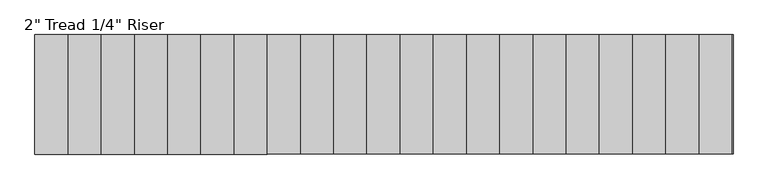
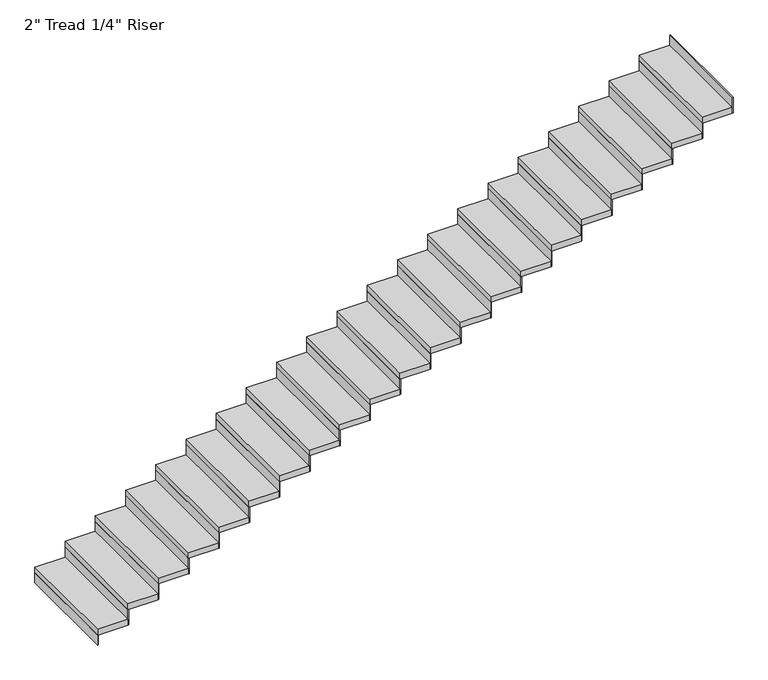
"""IFC4 building model written with IfcOpenShell, lengths in millimetres: stair flight geometry."""

import ifcopenshell
import ifcopenshell.guid

model = None  # the IFC model being written
_history = None  # IfcOwnerHistory: only IFC2X3 demands one
_inside = {}  # id of a spatial element -> (the spatial element, [elements in it])
_under = {}  # id of a project, library or spatial element -> (it, [spatial elements below it])
_declared = {}  # id of a project -> (the project, [libraries it declares])
_typed = {}  # id of a type object -> (the type object, [elements of that type])
_made_of = {}  # id of a material, layer set ... -> (it, [elements and type objects made of it])


def new_model(schema):
    """Start an empty IFC model of exactly this schema.

    Asked for "IFC4X3", IfcOpenShell would pick the latest addendum, in which some entities
    have other attributes; the version numbers below select the first issue.
    IFC2X3 requires an IfcOwnerHistory on every rooted entity: one is made here for all.
    """
    global model, _history
    if schema == "IFC4X3":
        model = ifcopenshell.file(schema_version=(4, 3, 0, 0))
    else:
        model = ifcopenshell.file(schema=schema)
    _inside.clear()
    _under.clear()
    _declared.clear()
    _typed.clear()
    _made_of.clear()
    _history = None
    if model.schema == "IFC2X3":
        org = make("IfcOrganization", Name="unknown")
        user = make(
            "IfcPersonAndOrganization",
            ThePerson=make("IfcPerson", FamilyName="unknown"),
            TheOrganization=org,
        )
        app = make(
            "IfcApplication",
            ApplicationDeveloper=org,
            Version="unknown",
            ApplicationFullName="unknown",
            ApplicationIdentifier="unknown",
        )
        _history = make(
            "IfcOwnerHistory",
            OwningUser=user,
            OwningApplication=app,
            ChangeAction="ADDED",
            CreationDate=0,
        )
    return model


def make(cls, **values):
    """One entity of the class cls with the attributes given. An attribute that is None is left unset."""
    return model.create_entity(
        cls, **{name: value for name, value in values.items() if value is not None}
    )


def rooted(cls, **values):
    """An entity with a GlobalId (a new one), such as an element, a storey or a relation."""
    return make(cls, GlobalId=ifcopenshell.guid.new(), OwnerHistory=_history, **values)


def si_unit(unit_type, name, prefix=None):
    """IfcSIUnit, for example si_unit("LENGTHUNIT", "METRE", prefix="MILLI")."""
    return make("IfcSIUnit", UnitType=unit_type, Prefix=prefix, Name=name)


def assignment(units):
    """IfcUnitAssignment: the units of a project."""
    return None if units is None else make("IfcUnitAssignment", Units=units)


def point(xyz):
    """IfcCartesianPoint."""
    return None if xyz is None else make("IfcCartesianPoint", Coordinates=xyz)


def direction(xyz):
    """IfcDirection."""
    return None if xyz is None else make("IfcDirection", DirectionRatios=xyz)


def frame(location, z_axis=None, x_axis=None):
    """IfcAxis2Placement3D, a coordinate frame: its origin and axes. An axis left out is left unset."""
    return make(
        "IfcAxis2Placement3D",
        Location=point(location),
        Axis=direction(z_axis),
        RefDirection=direction(x_axis),
    )


def origin():
    """The frame at (0, 0, 0) with its axes left unset."""
    return frame((0.0, 0.0, 0.0))


def origin_with_axes():
    """The frame at (0, 0, 0) with the z axis (0, 0, 1) and the x axis (1, 0, 0) written out."""
    return frame((0.0, 0.0, 0.0), z_axis=(0.0, 0.0, 1.0), x_axis=(1.0, 0.0, 0.0))


def place(relative_to, where):
    """IfcLocalPlacement: puts the frame where relative to a parent placement (None: the world)."""
    return make(
        "IfcLocalPlacement", PlacementRelTo=relative_to, RelativePlacement=where
    )


def context(
    kind, dimensions, precision=None, world=None, true_north=None, identifier=None
):
    """IfcGeometricRepresentationContext, for example the 3D "Model" context."""
    return make(
        "IfcGeometricRepresentationContext",
        ContextIdentifier=identifier,
        ContextType=kind,
        CoordinateSpaceDimension=dimensions,
        Precision=precision,
        WorldCoordinateSystem=world,
        TrueNorth=true_north,
    )


def project(units=None, contexts=None):
    """IfcProject with its units and contexts."""
    return rooted(
        "IfcProject",
        Name="project",
        RepresentationContexts=contexts,
        UnitsInContext=assignment(units),
    )


def spatial(cls, under=None, at=None, **own):
    """A site, building, storey or space (cls), placed at a placement, below another one or the project."""
    s = rooted(cls, ObjectPlacement=at, **own)
    if under is not None:
        _under.setdefault(under.id(), (under, []))[1].append(s)
    return s


def polyline(points):
    """IfcPolyline through the points."""
    return make("IfcPolyline", Points=[point(p) for p in points])


def outline(outer, holes=None, kind="AREA"):
    """IfcArbitraryClosedProfileDef: a profile drawn as a closed curve; with holes, ...WithVoids."""
    if holes is None:
        return make("IfcArbitraryClosedProfileDef", ProfileType=kind, OuterCurve=outer)
    return make(
        "IfcArbitraryProfileDefWithVoids",
        ProfileType=kind,
        OuterCurve=outer,
        InnerCurves=holes,
    )


def extrude(swept, where, along, depth):
    """IfcExtrudedAreaSolid: the profile swept, set in the frame where, extruded along a direction by depth."""
    return make(
        "IfcExtrudedAreaSolid",
        SweptArea=swept,
        Position=where,
        ExtrudedDirection=direction(along),
        Depth=depth,
    )


def shape(context_of_items, identifier, shape_type, items):
    """IfcShapeRepresentation: the items that make up one representation, for example the "Body"."""
    return make(
        "IfcShapeRepresentation",
        ContextOfItems=context_of_items,
        RepresentationIdentifier=identifier,
        RepresentationType=shape_type,
        Items=items,
    )


def source(mapping_origin, context_of_items, identifier, shape_type, items):
    """IfcRepresentationMap: a shape defined once, which mapped items show again and again."""
    return make(
        "IfcRepresentationMap",
        MappingOrigin=mapping_origin,
        MappedRepresentation=shape(context_of_items, identifier, shape_type, items),
    )


def transform(
    local_origin,
    x_axis=None,
    y_axis=None,
    z_axis=None,
    scale=None,
    scale2=None,
    scale3=None,
    uniform=True,
):
    """IfcCartesianTransformationOperator3D, or its non-uniform kind. x_axis, y_axis, z_axis: its Axis1, 2, 3."""
    if uniform:
        return make(
            "IfcCartesianTransformationOperator3D",
            Axis1=direction(x_axis),
            Axis2=direction(y_axis),
            LocalOrigin=point(local_origin),
            Scale=scale,
            Axis3=direction(z_axis),
        )
    return make(
        "IfcCartesianTransformationOperator3DnonUniform",
        Axis1=direction(x_axis),
        Axis2=direction(y_axis),
        LocalOrigin=point(local_origin),
        Scale=scale,
        Axis3=direction(z_axis),
        Scale2=scale2,
        Scale3=scale3,
    )


def mapped(mapping_source, mapping_target):
    """IfcMappedItem: shows the shape of a source again, moved by a transform."""
    return make(
        "IfcMappedItem", MappingSource=mapping_source, MappingTarget=mapping_target
    )


def made_of(thing, what):
    """Note that an element or type object is made of a material, layer set ...; save() writes the relation."""
    if what is not None:
        _made_of.setdefault(what.id(), (what, []))[1].append(thing)
    return thing


def element(
    cls,
    number,
    at=None,
    inside=None,
    cuts=None,
    type_object=None,
    material=None,
    context=None,
    identifier="Body",
    shape_type=None,
    held_by="IfcProductDefinitionShape",
    body=None,
    shapes=None,
    **own,
):
    """One element of the class cls, such as IfcWall. Its Tag is "e" and its number.

    at: its placement. inside: the storey or other place that contains it. cuts: it is an
    opening in that element (IfcRelVoidsElement). A single representation is given by context,
    identifier, shape_type and body (its items); several are given by shapes. held_by: the class
    of the entity that holds the representations. save() writes the other relations.
    """
    e = rooted(cls, Tag="e%d" % number, ObjectPlacement=at, **own)
    if body is not None:
        shapes = [shape(context, identifier, shape_type, body)]
    if shapes is not None:
        e.Representation = make(held_by, Representations=shapes)
    if inside is not None:
        _inside.setdefault(inside.id(), (inside, []))[1].append(e)
    if cuts is not None:
        rooted(
            "IfcRelVoidsElement", RelatingBuildingElement=cuts, RelatedOpeningElement=e
        )
    if type_object is not None:
        _typed.setdefault(type_object.id(), (type_object, []))[1].append(e)
    return made_of(e, material)


def aggregate(whole, parts):
    """IfcRelAggregates: a whole, such as a stair, and the parts it consists of."""
    return rooted("IfcRelAggregates", RelatingObject=whole, RelatedObjects=parts)


def save(model, path):
    """Write the relations noted so far, then the file.

    IfcRelAggregates (storeys below a building ...), IfcRelContainedInSpatialStructure (elements
    in a storey), IfcRelDefinesByType, IfcRelAssociatesMaterial and IfcRelDeclares: one each for
    every whole, place, type object, material and project.
    """
    for whole, parts in _under.values():
        aggregate(whole, parts)
    for where, things in _inside.values():
        rooted(
            "IfcRelContainedInSpatialStructure",
            RelatedElements=things,
            RelatingStructure=where,
        )
    for kind, things in _typed.values():
        rooted("IfcRelDefinesByType", RelatedObjects=things, RelatingType=kind)
    for what, things in _made_of.values():
        rooted("IfcRelAssociatesMaterial", RelatedObjects=things, RelatingMaterial=what)
    for by, libraries in _declared.values():
        rooted("IfcRelDeclares", RelatingContext=by, RelatedDefinitions=libraries)
    model.write(path)


def stair_flight_b50581c1(model_context):
    return source(origin(), model_context, "Body", "SweptSolid", [
        extrude(outline(polyline([(37787.6074767, 50586.5904464), (37781.2574767, 50586.5904464), (37781.2574767, 51500.9904464), (37787.6074767, 51500.9904464), (37787.6074767, 50586.5904464)])), origin_with_axes(), (0.0, 0.0, 1.0), 87.7454545),
        extrude(outline(polyline([(38035.2574767, 51500.9904464), (38035.2574767, 50586.5904464), (37781.2574767, 50586.5904464), (37781.2574767, 51500.9904464), (38035.2574767, 51500.9904464)])), frame((0.0, 0.0, 87.7454545), z_axis=(0.0, 0.0, 1.0), x_axis=(1.0, 0.0, 0.0)), (0.0, 0.0, 1.0), 50.8),
        extrude(outline(polyline([(38041.6074767, 50586.5904464), (38035.2574767, 50586.5904464), (38035.2574767, 51500.9904464), (38041.6074767, 51500.9904464), (38041.6074767, 50586.5904464)])), frame((0.0, 0.0, 87.7454545), z_axis=(0.0, 0.0, 1.0), x_axis=(1.0, 0.0, 0.0)), (0.0, 0.0, 1.0), 138.5454545),
        extrude(outline(polyline([(38289.2574767, 51500.9904464), (38289.2574767, 50586.5904464), (38035.2574767, 50586.5904464), (38035.2574767, 51500.9904464), (38289.2574767, 51500.9904464)])), frame((0.0, 0.0, 226.2909091), z_axis=(0.0, 0.0, 1.0), x_axis=(1.0, 0.0, 0.0)), (0.0, 0.0, 1.0), 50.8),
        extrude(outline(polyline([(38295.6074767, 50586.5904464), (38289.2574767, 50586.5904464), (38289.2574767, 51500.9904464), (38295.6074767, 51500.9904464), (38295.6074767, 50586.5904464)])), frame((0.0, 0.0, 226.2909091), z_axis=(0.0, 0.0, 1.0), x_axis=(1.0, 0.0, 0.0)), (0.0, 0.0, 1.0), 138.5454545),
        extrude(outline(polyline([(38543.2574767, 51500.9904464), (38543.2574767, 50586.5904464), (38289.2574767, 50586.5904464), (38289.2574767, 51500.9904464), (38543.2574767, 51500.9904464)])), frame((0.0, 0.0, 364.8363636), z_axis=(0.0, 0.0, 1.0), x_axis=(1.0, 0.0, 0.0)), (0.0, 0.0, 1.0), 50.8),
        extrude(outline(polyline([(38549.6074767, 50586.5904464), (38543.2574767, 50586.5904464), (38543.2574767, 51500.9904464), (38549.6074767, 51500.9904464), (38549.6074767, 50586.5904464)])), frame((0.0, 0.0, 364.8363636), z_axis=(0.0, 0.0, 1.0), x_axis=(1.0, 0.0, 0.0)), (0.0, 0.0, 1.0), 138.5454545),
        extrude(outline(polyline([(38797.2574767, 51500.9904464), (38797.2574767, 50586.5904464), (38543.2574767, 50586.5904464), (38543.2574767, 51500.9904464), (38797.2574767, 51500.9904464)])), frame((0.0, 0.0, 503.3818182), z_axis=(0.0, 0.0, 1.0), x_axis=(1.0, 0.0, 0.0)), (0.0, 0.0, 1.0), 50.8),
        extrude(outline(polyline([(38803.6074767, 50586.5904464), (38797.2574767, 50586.5904464), (38797.2574767, 51500.9904464), (38803.6074767, 51500.9904464), (38803.6074767, 50586.5904464)])), frame((0.0, 0.0, 503.3818182), z_axis=(0.0, 0.0, 1.0), x_axis=(1.0, 0.0, 0.0)), (0.0, 0.0, 1.0), 138.5454545),
        extrude(outline(polyline([(39051.2574767, 51500.9904464), (39051.2574767, 50586.5904464), (38797.2574767, 50586.5904464), (38797.2574767, 51500.9904464), (39051.2574767, 51500.9904464)])), frame((0.0, 0.0, 641.9272727), z_axis=(0.0, 0.0, 1.0), x_axis=(1.0, 0.0, 0.0)), (0.0, 0.0, 1.0), 50.8),
        extrude(outline(polyline([(39057.6074767, 50586.5904464), (39051.2574767, 50586.5904464), (39051.2574767, 51500.9904464), (39057.6074767, 51500.9904464), (39057.6074767, 50586.5904464)])), frame((0.0, 0.0, 641.9272727), z_axis=(0.0, 0.0, 1.0), x_axis=(1.0, 0.0, 0.0)), (0.0, 0.0, 1.0), 138.5454545),
        extrude(outline(polyline([(39305.2574767, 51500.9904464), (39305.2574767, 50586.5904464), (39051.2574767, 50586.5904464), (39051.2574767, 51500.9904464), (39305.2574767, 51500.9904464)])), frame((0.0, 0.0, 780.4727273), z_axis=(0.0, 0.0, 1.0), x_axis=(1.0, 0.0, 0.0)), (0.0, 0.0, 1.0), 50.8),
        extrude(outline(polyline([(39311.6074767, 50586.5904464), (39305.2574767, 50586.5904464), (39305.2574767, 51500.9904464), (39311.6074767, 51500.9904464), (39311.6074767, 50586.5904464)])), frame((0.0, 0.0, 780.4727273), z_axis=(0.0, 0.0, 1.0), x_axis=(1.0, 0.0, 0.0)), (0.0, 0.0, 1.0), 138.5454545),
        extrude(outline(polyline([(39559.2574767, 51500.9904464), (39559.2574767, 50586.5904464), (39305.2574767, 50586.5904464), (39305.2574767, 51500.9904464), (39559.2574767, 51500.9904464)])), frame((0.0, 0.0, 919.0181818), z_axis=(0.0, 0.0, 1.0), x_axis=(1.0, 0.0, 0.0)), (0.0, 0.0, 1.0), 50.8),
        extrude(outline(polyline([(39565.6074767, 50586.5904464), (39559.2574767, 50586.5904464), (39559.2574767, 51500.9904464), (39565.6074767, 51500.9904464), (39565.6074767, 50586.5904464)])), frame((0.0, 0.0, 919.0181818), z_axis=(0.0, 0.0, 1.0), x_axis=(1.0, 0.0, 0.0)), (0.0, 0.0, 1.0), 138.5454545),
        extrude(outline(polyline([(39813.2574767, 51500.9904464), (39813.2574767, 50586.5904464), (39559.2574767, 50586.5904464), (39559.2574767, 51500.9904464), (39813.2574767, 51500.9904464)])), frame((0.0, 0.0, 1057.5636364), z_axis=(0.0, 0.0, 1.0), x_axis=(1.0, 0.0, 0.0)), (0.0, 0.0, 1.0), 50.8),
        extrude(outline(polyline([(39819.6074767, 50586.5904464), (39813.2574767, 50586.5904464), (39813.2574767, 51500.9904464), (39819.6074767, 51500.9904464), (39819.6074767, 50586.5904464)])), frame((0.0, 0.0, 1057.5636364), z_axis=(0.0, 0.0, 1.0), x_axis=(1.0, 0.0, 0.0)), (0.0, 0.0, 1.0), 138.5454545),
        extrude(outline(polyline([(40067.2574767, 51500.9904464), (40067.2574767, 50586.5904464), (39813.2574767, 50586.5904464), (39813.2574767, 51500.9904464), (40067.2574767, 51500.9904464)])), frame((0.0, 0.0, 1196.1090909), z_axis=(0.0, 0.0, 1.0), x_axis=(1.0, 0.0, 0.0)), (0.0, 0.0, 1.0), 50.8),
        extrude(outline(polyline([(40073.6074767, 50586.5904464), (40067.2574767, 50586.5904464), (40067.2574767, 51500.9904464), (40073.6074767, 51500.9904464), (40073.6074767, 50586.5904464)])), frame((0.0, 0.0, 1196.1090909), z_axis=(0.0, 0.0, 1.0), x_axis=(1.0, 0.0, 0.0)), (0.0, 0.0, 1.0), 138.5454545),
        extrude(outline(polyline([(40321.2574767, 51500.9904464), (40321.2574767, 50586.5904464), (40067.2574767, 50586.5904464), (40067.2574767, 51500.9904464), (40321.2574767, 51500.9904464)])), frame((0.0, 0.0, 1334.6545455), z_axis=(0.0, 0.0, 1.0), x_axis=(1.0, 0.0, 0.0)), (0.0, 0.0, 1.0), 50.8),
        extrude(outline(polyline([(40327.6074767, 50586.5904464), (40321.2574767, 50586.5904464), (40321.2574767, 51500.9904464), (40327.6074767, 51500.9904464), (40327.6074767, 50586.5904464)])), frame((0.0, 0.0, 1334.6545455), z_axis=(0.0, 0.0, 1.0), x_axis=(1.0, 0.0, 0.0)), (0.0, 0.0, 1.0), 138.5454545),
        extrude(outline(polyline([(40575.2574767, 51500.9904464), (40575.2574767, 50586.5904464), (40321.2574767, 50586.5904464), (40321.2574767, 51500.9904464), (40575.2574767, 51500.9904464)])), frame((0.0, 0.0, 1473.2), z_axis=(0.0, 0.0, 1.0), x_axis=(1.0, 0.0, 0.0)), (0.0, 0.0, 1.0), 50.8),
        extrude(outline(polyline([(40581.6074767, 50586.5904464), (40575.2574767, 50586.5904464), (40575.2574767, 51500.9904464), (40581.6074767, 51500.9904464), (40581.6074767, 50586.5904464)])), frame((0.0, 0.0, 1473.2), z_axis=(0.0, 0.0, 1.0), x_axis=(1.0, 0.0, 0.0)), (0.0, 0.0, 1.0), 138.5454545),
        extrude(outline(polyline([(40829.2574767, 51500.9904464), (40829.2574767, 50586.5904464), (40575.2574767, 50586.5904464), (40575.2574767, 51500.9904464), (40829.2574767, 51500.9904464)])), frame((0.0, 0.0, 1611.7454545), z_axis=(0.0, 0.0, 1.0), x_axis=(1.0, 0.0, 0.0)), (0.0, 0.0, 1.0), 50.8),
        extrude(outline(polyline([(40835.6074767, 50586.5904464), (40829.2574767, 50586.5904464), (40829.2574767, 51500.9904464), (40835.6074767, 51500.9904464), (40835.6074767, 50586.5904464)])), frame((0.0, 0.0, 1611.7454545), z_axis=(0.0, 0.0, 1.0), x_axis=(1.0, 0.0, 0.0)), (0.0, 0.0, 1.0), 138.5454545),
        extrude(outline(polyline([(41083.2574767, 51500.9904464), (41083.2574767, 50586.5904464), (40829.2574767, 50586.5904464), (40829.2574767, 51500.9904464), (41083.2574767, 51500.9904464)])), frame((0.0, 0.0, 1750.2909091), z_axis=(0.0, 0.0, 1.0), x_axis=(1.0, 0.0, 0.0)), (0.0, 0.0, 1.0), 50.8),
        extrude(outline(polyline([(41089.6074767, 50586.5904464), (41083.2574767, 50586.5904464), (41083.2574767, 51500.9904464), (41089.6074767, 51500.9904464), (41089.6074767, 50586.5904464)])), frame((0.0, 0.0, 1750.2909091), z_axis=(0.0, 0.0, 1.0), x_axis=(1.0, 0.0, 0.0)), (0.0, 0.0, 1.0), 138.5454545),
        extrude(outline(polyline([(41337.2574767, 51500.9904464), (41337.2574767, 50586.5904464), (41083.2574767, 50586.5904464), (41083.2574767, 51500.9904464), (41337.2574767, 51500.9904464)])), frame((0.0, 0.0, 1888.8363636), z_axis=(0.0, 0.0, 1.0), x_axis=(1.0, 0.0, 0.0)), (0.0, 0.0, 1.0), 50.8),
        extrude(outline(polyline([(41343.6074767, 50586.5904464), (41337.2574767, 50586.5904464), (41337.2574767, 51500.9904464), (41343.6074767, 51500.9904464), (41343.6074767, 50586.5904464)])), frame((0.0, 0.0, 1888.8363636), z_axis=(0.0, 0.0, 1.0), x_axis=(1.0, 0.0, 0.0)), (0.0, 0.0, 1.0), 138.5454545),
        extrude(outline(polyline([(41591.2574767, 51500.9904464), (41591.2574767, 50586.5904464), (41337.2574767, 50586.5904464), (41337.2574767, 51500.9904464), (41591.2574767, 51500.9904464)])), frame((0.0, 0.0, 2027.3818182), z_axis=(0.0, 0.0, 1.0), x_axis=(1.0, 0.0, 0.0)), (0.0, 0.0, 1.0), 50.8),
        extrude(outline(polyline([(41597.6074767, 50586.5904464), (41591.2574767, 50586.5904464), (41591.2574767, 51500.9904464), (41597.6074767, 51500.9904464), (41597.6074767, 50586.5904464)])), frame((0.0, 0.0, 2027.3818182), z_axis=(0.0, 0.0, 1.0), x_axis=(1.0, 0.0, 0.0)), (0.0, 0.0, 1.0), 138.5454545),
        extrude(outline(polyline([(41845.2574767, 51500.9904464), (41845.2574767, 50586.5904464), (41591.2574767, 50586.5904464), (41591.2574767, 51500.9904464), (41845.2574767, 51500.9904464)])), frame((0.0, 0.0, 2165.9272727), z_axis=(0.0, 0.0, 1.0), x_axis=(1.0, 0.0, 0.0)), (0.0, 0.0, 1.0), 50.8),
        extrude(outline(polyline([(41851.6074767, 50586.5904464), (41845.2574767, 50586.5904464), (41845.2574767, 51500.9904464), (41851.6074767, 51500.9904464), (41851.6074767, 50586.5904464)])), frame((0.0, 0.0, 2165.9272727), z_axis=(0.0, 0.0, 1.0), x_axis=(1.0, 0.0, 0.0)), (0.0, 0.0, 1.0), 138.5454545),
        extrude(outline(polyline([(42099.2574767, 51500.9904464), (42099.2574767, 50586.5904464), (41845.2574767, 50586.5904464), (41845.2574767, 51500.9904464), (42099.2574767, 51500.9904464)])), frame((0.0, 0.0, 2304.4727273), z_axis=(0.0, 0.0, 1.0), x_axis=(1.0, 0.0, 0.0)), (0.0, 0.0, 1.0), 50.8),
        extrude(outline(polyline([(42105.6074767, 50586.5904464), (42099.2574767, 50586.5904464), (42099.2574767, 51500.9904464), (42105.6074767, 51500.9904464), (42105.6074767, 50586.5904464)])), frame((0.0, 0.0, 2304.4727273), z_axis=(0.0, 0.0, 1.0), x_axis=(1.0, 0.0, 0.0)), (0.0, 0.0, 1.0), 138.5454545),
        extrude(outline(polyline([(42353.2574767, 51500.9904464), (42353.2574767, 50586.5904464), (42099.2574767, 50586.5904464), (42099.2574767, 51500.9904464), (42353.2574767, 51500.9904464)])), frame((0.0, 0.0, 2443.0181818), z_axis=(0.0, 0.0, 1.0), x_axis=(1.0, 0.0, 0.0)), (0.0, 0.0, 1.0), 50.8),
        extrude(outline(polyline([(42359.6074767, 50586.5904464), (42353.2574767, 50586.5904464), (42353.2574767, 51500.9904464), (42359.6074767, 51500.9904464), (42359.6074767, 50586.5904464)])), frame((0.0, 0.0, 2443.0181818), z_axis=(0.0, 0.0, 1.0), x_axis=(1.0, 0.0, 0.0)), (0.0, 0.0, 1.0), 138.5454545),
        extrude(outline(polyline([(42607.2574767, 51500.9904464), (42607.2574767, 50586.5904464), (42353.2574767, 50586.5904464), (42353.2574767, 51500.9904464), (42607.2574767, 51500.9904464)])), frame((0.0, 0.0, 2581.5636364), z_axis=(0.0, 0.0, 1.0), x_axis=(1.0, 0.0, 0.0)), (0.0, 0.0, 1.0), 50.8),
        extrude(outline(polyline([(42613.6074767, 50586.5904464), (42607.2574767, 50586.5904464), (42607.2574767, 51500.9904464), (42613.6074767, 51500.9904464), (42613.6074767, 50586.5904464)])), frame((0.0, 0.0, 2581.5636364), z_axis=(0.0, 0.0, 1.0), x_axis=(1.0, 0.0, 0.0)), (0.0, 0.0, 1.0), 138.5454545),
        extrude(outline(polyline([(42861.2574767, 51500.9904464), (42861.2574767, 50586.5904464), (42607.2574767, 50586.5904464), (42607.2574767, 51500.9904464), (42861.2574767, 51500.9904464)])), frame((0.0, 0.0, 2720.1090909), z_axis=(0.0, 0.0, 1.0), x_axis=(1.0, 0.0, 0.0)), (0.0, 0.0, 1.0), 50.8),
        extrude(outline(polyline([(42867.6074767, 50586.5904464), (42861.2574767, 50586.5904464), (42861.2574767, 51500.9904464), (42867.6074767, 51500.9904464), (42867.6074767, 50586.5904464)])), frame((0.0, 0.0, 2720.1090909), z_axis=(0.0, 0.0, 1.0), x_axis=(1.0, 0.0, 0.0)), (0.0, 0.0, 1.0), 138.5454545),
        extrude(outline(polyline([(43121.6074767, 50586.5904464), (43115.2574767, 50586.5904464), (43115.2574767, 51500.9904464), (43121.6074767, 51500.9904464), (43121.6074767, 50586.5904464)])), frame((0.0, 0.0, 2858.6545455), z_axis=(0.0, 0.0, 1.0), x_axis=(1.0, 0.0, 0.0)), (0.0, 0.0, 1.0), 138.5454545),
        extrude(outline(polyline([(43115.2574767, 51500.9904464), (43115.2574767, 50586.5904464), (42861.2574767, 50586.5904464), (42861.2574767, 51500.9904464), (43115.2574767, 51500.9904464)])), frame((0.0, 0.0, 2858.6545455), z_axis=(0.0, 0.0, 1.0), x_axis=(1.0, 0.0, 0.0)), (0.0, 0.0, 1.0), 50.8),
    ])


if __name__ == "__main__":
    model = new_model("IFC4")
    model_context = context("Model", 3, world=origin())
    ifc_project = project(units=[si_unit("LENGTHUNIT", "METRE", prefix="MILLI")], contexts=[model_context])
    site = spatial("IfcSite", under=ifc_project)
    building = spatial("IfcBuilding", under=site)
    placement = place(None, origin())
    stair_flight_shape = stair_flight_b50581c1(model_context)
    element("IfcStairFlight", 1, ObjectType="2\" Tread 1/4\" Riser", at=placement, inside=building, context=model_context, shape_type="MappedRepresentation", body=[
        mapped(stair_flight_shape, transform((0.0, 0.0, 0.0), x_axis=(1.0, 0.0, 0.0), y_axis=(0.0, 1.0, 0.0), z_axis=(0.0, 0.0, 1.0))),
    ])
    save(model, "model.ifc")
